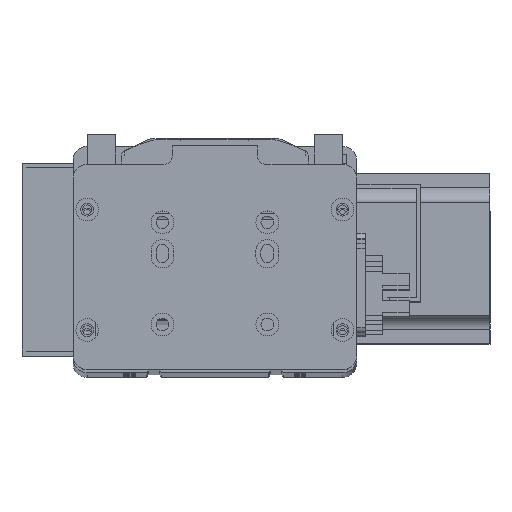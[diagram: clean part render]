
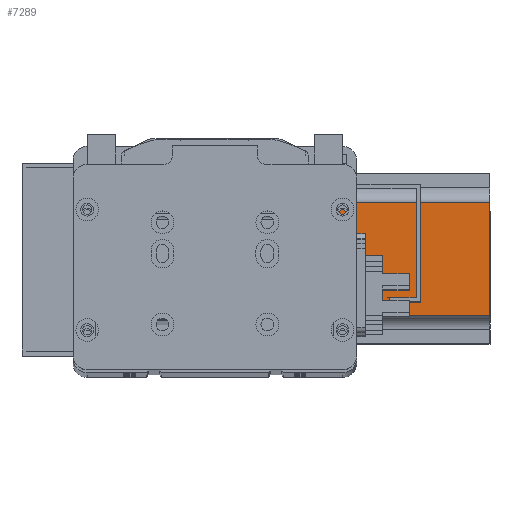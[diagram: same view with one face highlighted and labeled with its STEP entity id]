
A CAD part, top view. The second image highlights one B-rep face of the part: STEP entity #7289.
In plain terms, the highlighted planar face has unit normal (0, 0, 1).
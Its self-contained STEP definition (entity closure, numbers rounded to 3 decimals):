
#3076 = CARTESIAN_POINT ( 'NONE',  ( -30.409, 15.562, -229. ) ) ;
#3077 = CARTESIAN_POINT ( 'NONE',  ( 94.591, 20.562, -229. ) ) ;
#3110 = CARTESIAN_POINT ( 'NONE',  ( -23.409, 20.562, -229. ) ) ;
#3175 = DIRECTION ( 'NONE',  ( 0., -1., 0. ) ) ;
#3176 = VECTOR ( 'NONE', #3175, 1000. ) ;
#3177 = CARTESIAN_POINT ( 'NONE',  ( -30.409, 70.562, -229. ) ) ;
#3178 = LINE ( 'NONE', #3177, #3176 ) ;
#3253 = CARTESIAN_POINT ( 'NONE',  ( -23.409, 15.562, -229. ) ) ;
#3254 = DIRECTION ( 'NONE',  ( 0., 1., 0. ) ) ;
#3255 = VECTOR ( 'NONE', #3254, 1000. ) ;
#3256 = CARTESIAN_POINT ( 'NONE',  ( -23.409, 10.562, -229. ) ) ;
#3257 = LINE ( 'NONE', #3256, #3255 ) ;
#3273 = CARTESIAN_POINT ( 'NONE',  ( 94.591, 60.562, -229. ) ) ;
#3486 = DIRECTION ( 'NONE',  ( 1., 0., 0. ) ) ;
#3487 = VECTOR ( 'NONE', #3486, 1000. ) ;
#3488 = CARTESIAN_POINT ( 'NONE',  ( -23.409, 15.562, -229. ) ) ;
#3489 = LINE ( 'NONE', #3488, #3487 ) ;
#3524 = DIRECTION ( 'NONE',  ( 1., 0., 0. ) ) ;
#3525 = VECTOR ( 'NONE', #3524, 1000. ) ;
#3526 = CARTESIAN_POINT ( 'NONE',  ( -23.409, 60.562, -229. ) ) ;
#3531 = LINE ( 'NONE', #3526, #3525 ) ;
#3788 = DIRECTION ( 'NONE',  ( 1., 0., 0. ) ) ;
#3789 = VECTOR ( 'NONE', #3788, 1000. ) ;
#3790 = CARTESIAN_POINT ( 'NONE',  ( -23.409, 20.562, -229. ) ) ;
#3791 = LINE ( 'NONE', #3790, #3789 ) ;
#3820 = DIRECTION ( 'NONE',  ( 0., -1., 0. ) ) ;
#3821 = VECTOR ( 'NONE', #3820, 1000. ) ;
#3822 = CARTESIAN_POINT ( 'NONE',  ( 94.591, 70.562, -229. ) ) ;
#3827 = LINE ( 'NONE', #3822, #3821 ) ;
#4050 = DIRECTION ( 'NONE',  ( 0., 1., 0. ) ) ;
#4051 = DIRECTION ( 'NONE',  ( 0., 0., 1. ) ) ;
#4052 = CARTESIAN_POINT ( 'NONE',  ( -30.409, 70.562, -229. ) ) ;
#4053 = AXIS2_PLACEMENT_3D ( 'NONE', #4052, #4051, #4050 ) ;
#4054 = PLANE ( 'NONE',  #4053 ) ;
#4055 = FACE_OUTER_BOUND ( 'NONE', #6821, .T. ) ;
#6767 = ORIENTED_EDGE ( 'NONE', *, *, #6875, .T. ) ;
#6768 = VERTEX_POINT ( 'NONE', #3110 ) ;
#6775 = EDGE_CURVE ( 'NONE', #11665, #6820, #3178, .T. ) ;
#6815 = ORIENTED_EDGE ( 'NONE', *, *, #7196, .T. ) ;
#6817 = VERTEX_POINT ( 'NONE', #3077 ) ;
#6818 = ORIENTED_EDGE ( 'NONE', *, *, #11626, .F. ) ;
#6820 = VERTEX_POINT ( 'NONE', #3076 ) ;
#6821 = EDGE_LOOP ( 'NONE', ( #7074, #7116, #6767, #6815, #7113, #6858, #6818, #7296 ) ) ;
#6858 = ORIENTED_EDGE ( 'NONE', *, *, #6982, .F. ) ;
#6875 = EDGE_CURVE ( 'NONE', #6877, #6768, #3257, .T. ) ;
#6877 = VERTEX_POINT ( 'NONE', #3253 ) ;
#6948 = VERTEX_POINT ( 'NONE', #3273 ) ;
#6982 = EDGE_CURVE ( 'NONE', #11627, #6948, #3531, .T. ) ;
#7074 = ORIENTED_EDGE ( 'NONE', *, *, #6775, .T. ) ;
#7081 = EDGE_CURVE ( 'NONE', #6820, #6877, #3489, .T. ) ;
#7113 = ORIENTED_EDGE ( 'NONE', *, *, #7114, .F. ) ;
#7114 = EDGE_CURVE ( 'NONE', #6948, #6817, #3827, .T. ) ;
#7116 = ORIENTED_EDGE ( 'NONE', *, *, #7081, .T. ) ;
#7196 = EDGE_CURVE ( 'NONE', #6768, #6817, #3791, .T. ) ;
#7289 = ADVANCED_FACE ( 'NONE', ( #4055 ), #4054, .T. ) ;
#7296 = ORIENTED_EDGE ( 'NONE', *, *, #11542, .T. ) ;
#11542 = EDGE_CURVE ( 'NONE', #11624, #11665, #18948, .T. ) ;
#11624 = VERTEX_POINT ( 'NONE', #19129 ) ;
#11626 = EDGE_CURVE ( 'NONE', #11624, #11627, #19128, .T. ) ;
#11627 = VERTEX_POINT ( 'NONE', #19124 ) ;
#11665 = VERTEX_POINT ( 'NONE', #19389 ) ;
#18946 = DIRECTION ( 'NONE',  ( -1., 0., 0. ) ) ;
#18947 = CARTESIAN_POINT ( 'NONE',  ( -30.409, 65.562, -229. ) ) ;
#18948 = LINE ( 'NONE', #18947, #18986 ) ;
#18986 = VECTOR ( 'NONE', #18946, 1000. ) ;
#19124 = CARTESIAN_POINT ( 'NONE',  ( -23.409, 60.562, -229. ) ) ;
#19125 = DIRECTION ( 'NONE',  ( 0., -1., 0. ) ) ;
#19126 = VECTOR ( 'NONE', #19125, 1000. ) ;
#19127 = CARTESIAN_POINT ( 'NONE',  ( -23.409, 70.562, -229. ) ) ;
#19128 = LINE ( 'NONE', #19127, #19126 ) ;
#19129 = CARTESIAN_POINT ( 'NONE',  ( -23.409, 65.562, -229. ) ) ;
#19389 = CARTESIAN_POINT ( 'NONE',  ( -30.409, 65.562, -229. ) ) ;
